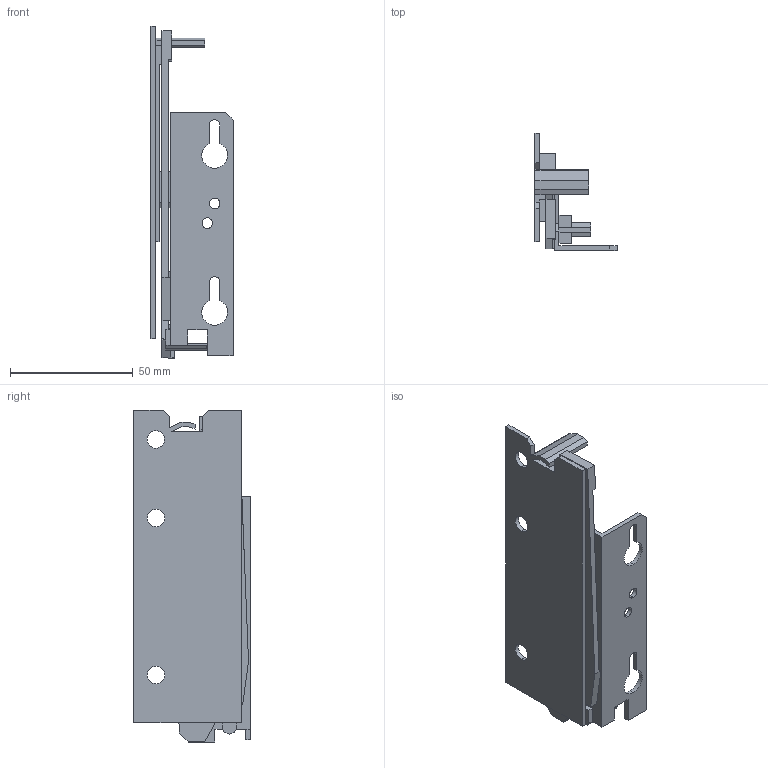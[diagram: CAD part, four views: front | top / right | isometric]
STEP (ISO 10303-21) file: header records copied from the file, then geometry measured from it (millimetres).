
FILE_DESCRIPTION (( 'STEP AP214' ), '1' );
FILE_NAME ('Kinvaro_T-57_rechts_D2575018125~0-STGA.STEP', '2016-05-17T07:05:10', ( 'Admin' ), ( 'Hewlett-Packard Company' ), 'SwSTEP 2.0', 'SolidWorks 2015', '' );
FILE_SCHEMA (( 'AUTOMOTIVE_DESIGN' ));
Length unit declared in the file: millimetre
Products named in the file (1): Kinvaro_T-57_rechts_D2575018125~0-STGA
Bounding box: 33.5 x 47.47 x 135.32 mm (x, y, z)
Volume: 27427.2 mm3; surface area: 27273.7 mm2
Topology: 1 solids, 1 shells, 118 faces, 339 edges, 223 vertices
Faces by surface type: plane 100, cylinder 18
Entity records: 3876 total; most frequent: CARTESIAN_POINT 686, ORIENTED_EDGE 678, DIRECTION 610, EDGE_CURVE 339, VECTOR 300, LINE 300, VERTEX_POINT 223, AXIS2_PLACEMENT_3D 155
